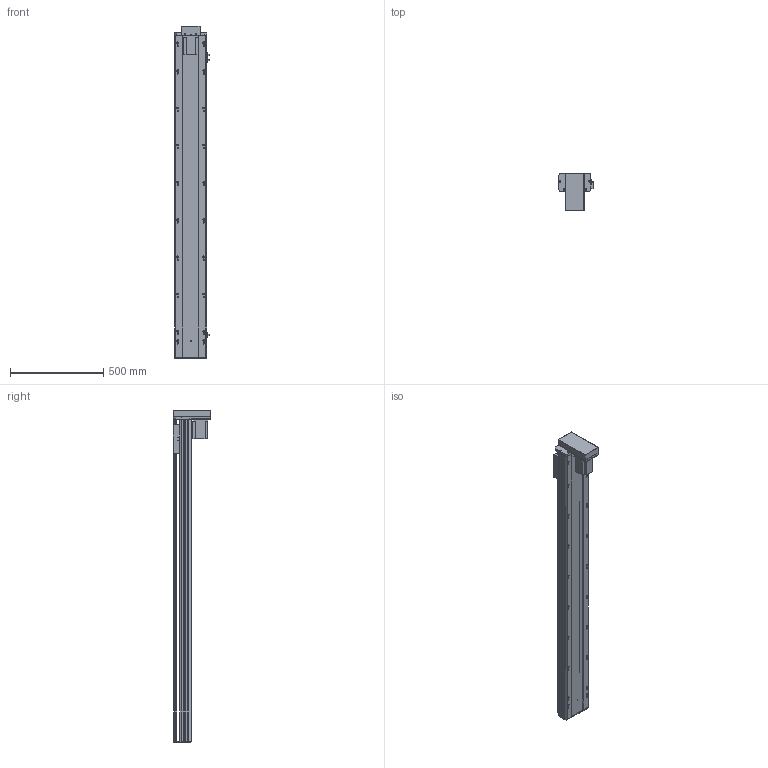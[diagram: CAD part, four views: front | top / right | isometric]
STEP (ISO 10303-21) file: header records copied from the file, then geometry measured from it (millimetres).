
FILE_DESCRIPTION (( 'STEP AP203' ), '1' );
FILE_NAME ('Y170-D10-S1500-BM-P750W.STEP', '2020-01-22T03:33:24', ( '微软用户' ), ( '微软中国' ), 'SwSTEP 2.0', 'SolidWorks 2017', '' );
FILE_SCHEMA (( 'CONFIG_CONTROL_DESIGN' ));
Length unit declared in the file: millimetre
Products named in the file (12): YD-Y100-135-新外置传感挡片(通用）; 170--掛极-BR; Y100-135俋离換覜ん; 侂狟750W; Y170-D10-S1500-BM-P750W; EGH20賑輸_蕼偞; Y雄赽釱-耜蚾; Y170-陔遴奻裔-BR; 170-BM耜蚾蟀諉啣; Y170-BM--P750W楊擘啣; -BM俋袗; Y170耜裔--準---
Assembly tree (14 placements, depth 2):
  Y170-D10-S1500-BM-P750W
    Y170耜裔--準---
    170--掛极-BR
    侂狟750W
    EGH20賑輸_蕼偞  x2
    Y雄赽釱-耜蚾
    Y170-陔遴奻裔-BR
    170-BM耜蚾蟀諉啣
    Y170-BM--P750W楊擘啣
    -BM俋袗
    YD-Y100-135-新外置传感挡片(通用）
    Y100-135俋离換覜ん  x3
Bounding box: 183.5 x 203.5 x 1783.5 mm (x, y, z)
Volume: 7914315.6 mm3; surface area: 2785000.4 mm2
Topology: 14 solids, 14 shells, 954 faces, 2748 edges, 1814 vertices
Faces by surface type: cylinder 502, plane 436, cone 16
Entity records: 30906 total; most frequent: CARTESIAN_POINT 5679, DIRECTION 5064, ORIENTED_EDGE 4992, EDGE_CURVE 2496, AXIS2_PLACEMENT_3D 1811, VERTEX_POINT 1658, LINE 1442, VECTOR 1442
